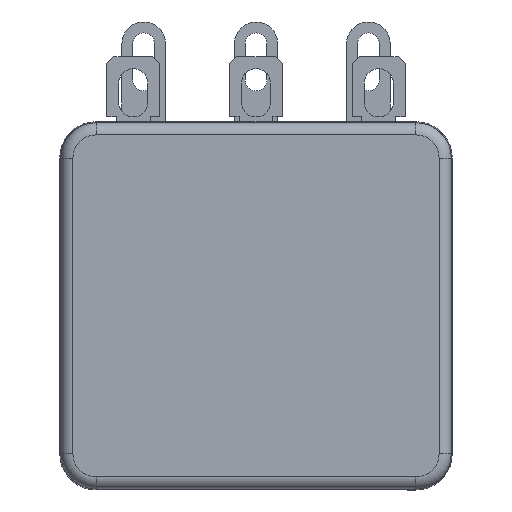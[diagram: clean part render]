
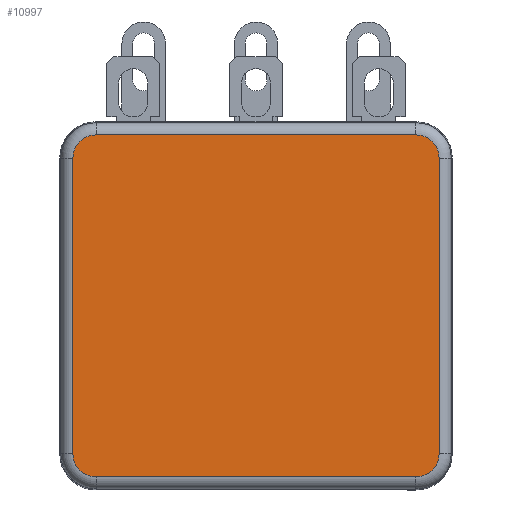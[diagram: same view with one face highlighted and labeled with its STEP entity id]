
A CAD part, left-side view. The second image highlights one B-rep face of the part: STEP entity #10997.
In plain terms, the highlighted planar face has unit normal (-1, 0, 0).
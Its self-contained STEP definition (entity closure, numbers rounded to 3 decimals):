
#375=PLANE('',#11842);
#1106=LINE('',#17228,#2122);
#1127=LINE('',#17297,#2143);
#1128=LINE('',#17302,#2144);
#1129=LINE('',#17305,#2145);
#2122=VECTOR('',#13981,1000.);
#2143=VECTOR('',#14068,1000.);
#2144=VECTOR('',#14071,1000.);
#2145=VECTOR('',#14074,1000.);
#4221=ORIENTED_EDGE('',*,*,#6470,.T.);
#4222=ORIENTED_EDGE('',*,*,#6471,.F.);
#4223=ORIENTED_EDGE('',*,*,#6472,.T.);
#4224=ORIENTED_EDGE('',*,*,#6473,.F.);
#4225=ORIENTED_EDGE('',*,*,#6437,.T.);
#4226=ORIENTED_EDGE('',*,*,#6469,.F.);
#4227=ORIENTED_EDGE('',*,*,#6474,.T.);
#4228=ORIENTED_EDGE('',*,*,#6475,.F.);
#6437=EDGE_CURVE('',#7715,#7714,#1106,.T.);
#6469=EDGE_CURVE('',#7729,#7714,#8417,.T.);
#6470=EDGE_CURVE('',#7730,#7731,#1127,.T.);
#6471=EDGE_CURVE('',#7732,#7731,#8418,.T.);
#6472=EDGE_CURVE('',#7732,#7733,#1128,.T.);
#6473=EDGE_CURVE('',#7715,#7733,#8419,.T.);
#6474=EDGE_CURVE('',#7729,#7734,#1129,.T.);
#6475=EDGE_CURVE('',#7730,#7734,#8420,.T.);
#7714=VERTEX_POINT('',#17227);
#7715=VERTEX_POINT('',#17229);
#7729=VERTEX_POINT('',#17294);
#7730=VERTEX_POINT('',#17298);
#7731=VERTEX_POINT('',#17299);
#7732=VERTEX_POINT('',#17301);
#7733=VERTEX_POINT('',#17303);
#7734=VERTEX_POINT('',#17306);
#8417=CIRCLE('',#11841,0.959);
#8418=CIRCLE('',#11843,0.959);
#8419=CIRCLE('',#11844,0.959);
#8420=CIRCLE('',#11845,0.959);
#9050=EDGE_LOOP('',(#4221,#4222,#4223,#4224,#4225,#4226,#4227,#4228));
#9784=FACE_BOUND('',#9050,.T.);
#10997=ADVANCED_FACE('',(#9784),#375,.F.);
#11841=AXIS2_PLACEMENT_3D('',#17295,#14064,#14065);
#11842=AXIS2_PLACEMENT_3D('',#17296,#14066,#14067);
#11843=AXIS2_PLACEMENT_3D('',#17300,#14069,#14070);
#11844=AXIS2_PLACEMENT_3D('',#17304,#14072,#14073);
#11845=AXIS2_PLACEMENT_3D('',#17307,#14075,#14076);
#13981=DIRECTION('',(0.,1.,0.));
#14064=DIRECTION('',(1.,0.,0.));
#14065=DIRECTION('',(0.,0.,-1.));
#14066=DIRECTION('',(1.,0.,0.));
#14067=DIRECTION('',(0.,0.,-1.));
#14068=DIRECTION('',(0.,-1.,0.));
#14069=DIRECTION('',(1.,0.,0.));
#14070=DIRECTION('',(0.,0.,-1.));
#14071=DIRECTION('',(0.,0.,1.));
#14072=DIRECTION('',(1.,0.,0.));
#14073=DIRECTION('',(0.,0.,-1.));
#14074=DIRECTION('',(0.,0.,-1.));
#14075=DIRECTION('',(1.,0.,0.));
#14076=DIRECTION('',(0.,0.,-1.));
#17227=CARTESIAN_POINT('',(-29.39,12.87,13.329));
#17228=CARTESIAN_POINT('',(-29.39,12.87,13.329));
#17229=CARTESIAN_POINT('',(-29.39,-0.37,13.329));
#17294=CARTESIAN_POINT('',(-29.39,13.829,12.37));
#17295=CARTESIAN_POINT('',(-29.39,12.87,12.37));
#17296=CARTESIAN_POINT('',(-29.39,12.87,12.37));
#17297=CARTESIAN_POINT('',(-29.39,12.87,-0.829));
#17298=CARTESIAN_POINT('',(-29.39,12.87,-0.829));
#17299=CARTESIAN_POINT('',(-29.39,-0.37,-0.829));
#17300=CARTESIAN_POINT('',(-29.39,-0.37,0.13));
#17301=CARTESIAN_POINT('',(-29.39,-1.329,0.13));
#17302=CARTESIAN_POINT('',(-29.39,-1.329,12.37));
#17303=CARTESIAN_POINT('',(-29.39,-1.329,12.37));
#17304=CARTESIAN_POINT('',(-29.39,-0.37,12.37));
#17305=CARTESIAN_POINT('',(-29.39,13.829,12.37));
#17306=CARTESIAN_POINT('',(-29.39,13.829,0.13));
#17307=CARTESIAN_POINT('',(-29.39,12.87,0.13));
